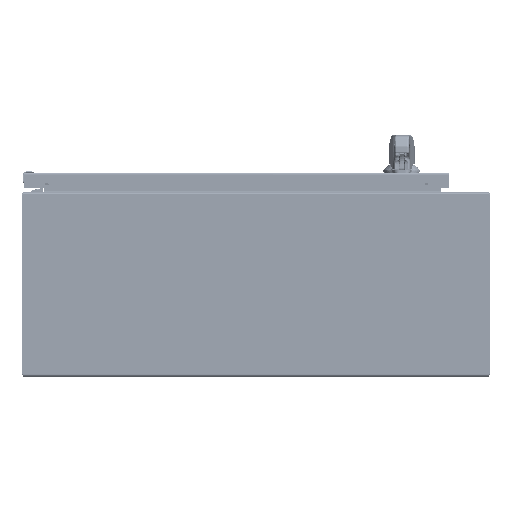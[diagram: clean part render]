
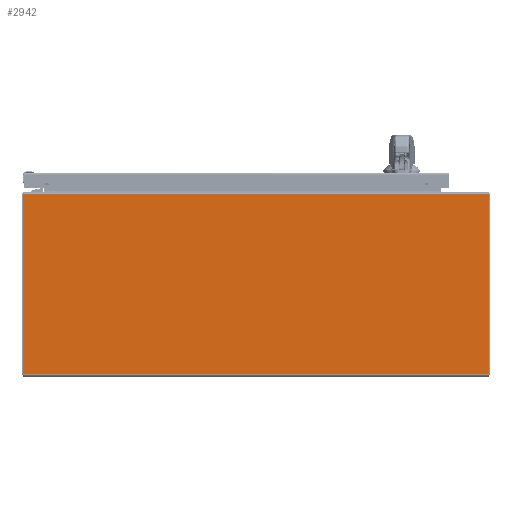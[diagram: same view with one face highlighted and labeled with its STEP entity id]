
A CAD part, left-side view. The second image highlights one B-rep face of the part: STEP entity #2942.
In plain terms, the highlighted planar face has unit normal (-1, 0, 0).
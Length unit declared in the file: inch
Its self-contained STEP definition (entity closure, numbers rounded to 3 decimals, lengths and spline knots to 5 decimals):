
#650=DIRECTION('',(0.,1.,0.));
#651=VECTOR('',#650,25.225);
#652=CARTESIAN_POINT('',(-24.,-12.6125,-4.864));
#653=LINE('',#652,#651);
#801=DIRECTION('',(0.,0.,-1.));
#802=VECTOR('',#801,9.747);
#803=CARTESIAN_POINT('',(-24.,-12.6125,4.883));
#804=LINE('',#803,#802);
#815=DIRECTION('',(0.,1.,0.));
#816=VECTOR('',#815,25.225);
#817=CARTESIAN_POINT('',(-24.,-12.6125,4.883));
#818=LINE('',#817,#816);
#859=DIRECTION('',(0.,0.,-1.));
#860=VECTOR('',#859,9.747);
#861=CARTESIAN_POINT('',(-24.,12.6125,4.883));
#862=LINE('',#861,#860);
#2054=CARTESIAN_POINT('',(-24.,-12.6125,4.883));
#2055=CARTESIAN_POINT('',(-24.,12.6125,4.883));
#2056=VERTEX_POINT('',#2054);
#2057=VERTEX_POINT('',#2055);
#2066=CARTESIAN_POINT('',(-24.,-12.6125,-4.864));
#2067=CARTESIAN_POINT('',(-24.,12.6125,-4.864));
#2068=VERTEX_POINT('',#2066);
#2069=VERTEX_POINT('',#2067);
#2930=CARTESIAN_POINT('',(-24.,-12.6125,5.));
#2931=DIRECTION('',(-1.,0.,0.));
#2932=DIRECTION('',(0.,0.,-1.));
#2933=AXIS2_PLACEMENT_3D('',#2930,#2931,#2932);
#2934=PLANE('',#2933);
#2935=ORIENTED_EDGE('',*,*,#2895,.T.);
#2936=ORIENTED_EDGE('',*,*,#2788,.T.);
#2938=ORIENTED_EDGE('',*,*,#2937,.F.);
#2939=ORIENTED_EDGE('',*,*,#2920,.F.);
#2940=EDGE_LOOP('',(#2935,#2936,#2938,#2939));
#2941=FACE_OUTER_BOUND('',#2940,.F.);
#2788=EDGE_CURVE('',#2068,#2069,#653,.T.);
#2895=EDGE_CURVE('',#2056,#2068,#804,.T.);
#2920=EDGE_CURVE('',#2056,#2057,#818,.T.);
#2937=EDGE_CURVE('',#2057,#2069,#862,.T.);
#2942=ADVANCED_FACE('',(#2941),#2934,.T.);
